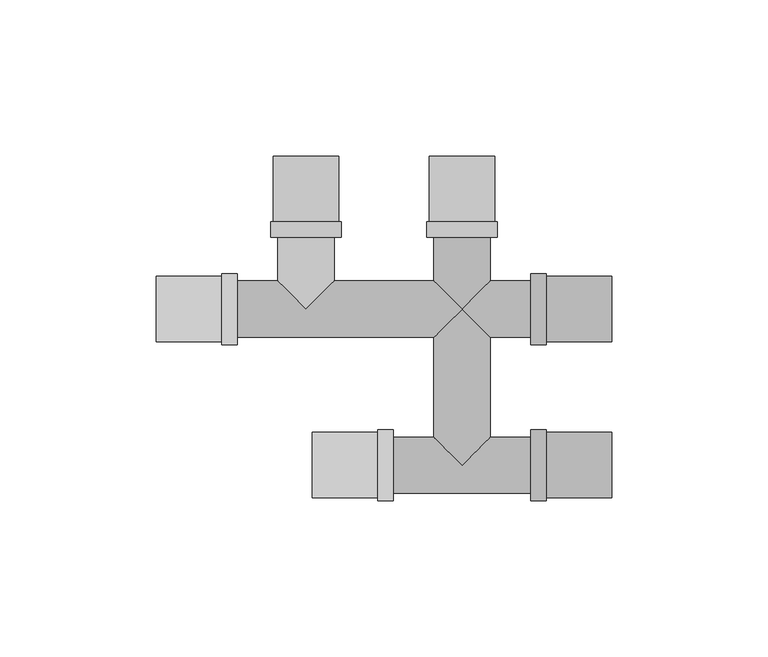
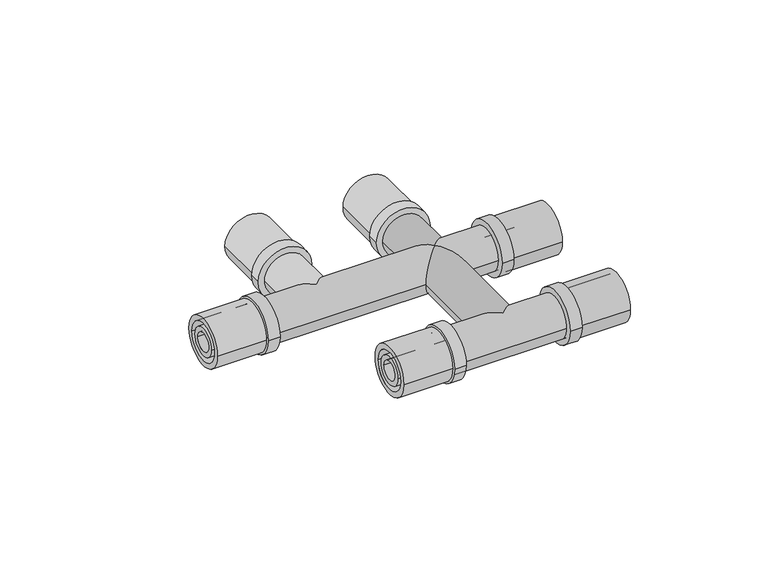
"""IFC4 building model written with IfcOpenShell, lengths in millimetres: pipe fitting geometry, PIF_Tigris_Crossfitting_Wavin_(multiport) : Tigris M5 Crossfitting 16x16x16."""

from ifc_helpers import new_model, si_unit, point, frame, frame_2d, origin, origin_2d, place, context, project, spatial, circle_curve, ellipse_curve, trimmed, segment, composite_curve, outline, extrude, source, transform, mapped, element, save
from ifc_brep_helpers import plane_surface, cylinder_surface, advanced_brep


def pipe_fitting_1897fdac(model_context):
    return source(origin(), model_context, "Body", "SolidModel", [
        extrude(outline(composite_curve([segment(trimmed(circle_curve(frame_2d((-50.0, 0.0)), 11.35), [point((-61.35, 0.0))], [point((-38.65, 0.0))], False, "CARTESIAN"), True, "CONTINUOUS"), segment(trimmed(circle_curve(frame_2d((-50.0, 0.0)), 11.35), [point((-38.65, 0.0))], [point((-61.35, 0.0))], False, "CARTESIAN"), True, "CONTINUOUS")], self_intersect=False)), frame((-27.0, 0.0, 0.0), z_axis=(1.0, 0.0, 0.0), x_axis=(0.0, 1.0, 0.0)), (0.0, 0.0, 1.0), 5.0),
        extrude(outline(composite_curve([segment(trimmed(circle_curve(frame_2d((-50.0, 0.0)), 10.5), [point((-60.5, 0.0))], [point((-39.5, 0.0))], False, "CARTESIAN"), True, "CONTINUOUS"), segment(trimmed(circle_curve(frame_2d((-50.0, 0.0)), 10.5), [point((-39.5, 0.0))], [point((-60.5, 0.0))], False, "CARTESIAN"), True, "CONTINUOUS")], self_intersect=False), holes=[composite_curve([segment(trimmed(circle_curve(frame_2d((-50.0, 0.0)), 8.2), [point((-58.2, 0.0))], [point((-41.8, 0.0))], True, "CARTESIAN"), True, "CONTINUOUS"), segment(trimmed(circle_curve(frame_2d((-50.0, 0.0)), 8.2), [point((-41.8, 0.0))], [point((-58.2, 0.0))], True, "CARTESIAN"), True, "CONTINUOUS")], self_intersect=False)]), frame((-48.0, 0.0, 0.0), z_axis=(1.0, 0.0, 0.0), x_axis=(0.0, 1.0, 0.0)), (0.0, 0.0, 1.0), 21.0),
        extrude(outline(composite_curve([segment(trimmed(circle_curve(frame_2d((-50.0, 0.0)), 6.1), [point((-56.1, 0.0))], [point((-43.9, 0.0))], False, "CARTESIAN"), True, "CONTINUOUS"), segment(trimmed(circle_curve(frame_2d((-50.0, 0.0)), 6.1), [point((-43.9, 0.0))], [point((-56.1, 0.0))], False, "CARTESIAN"), True, "CONTINUOUS")], self_intersect=False), holes=[composite_curve([segment(trimmed(circle_curve(frame_2d((-50.0, 0.0)), 4.0), [point((-54.0, 0.0))], [point((-46.0, 0.0))], True, "CARTESIAN"), True, "CONTINUOUS"), segment(trimmed(circle_curve(frame_2d((-50.0, 0.0)), 4.0), [point((-46.0, 0.0))], [point((-54.0, 0.0))], True, "CARTESIAN"), True, "CONTINUOUS")], self_intersect=False)]), frame((-48.0, 0.0, 0.0), z_axis=(1.0, 0.0, 0.0), x_axis=(0.0, 1.0, 0.0)), (0.0, 0.0, 1.0), 25.0),
        extrude(outline(composite_curve([segment(trimmed(circle_curve(frame_2d((-50.0, 0.0)), 11.35), [point((-38.65, 0.0))], [point((-61.35, 0.0))], False, "CARTESIAN"), True, "CONTINUOUS"), segment(trimmed(circle_curve(frame_2d((-50.0, 0.0)), 11.35), [point((-61.35, 0.0))], [point((-38.65, 0.0))], False, "CARTESIAN"), True, "CONTINUOUS")], self_intersect=False)), frame((22.0, 0.0, 0.0), z_axis=(1.0, 0.0, 0.0), x_axis=(0.0, 1.0, 0.0)), (0.0, 0.0, 1.0), 5.0),
        extrude(outline(composite_curve([segment(trimmed(circle_curve(frame_2d((-50.0, 0.0)), 10.5), [point((-39.5, 0.0))], [point((-60.5, 0.0))], False, "CARTESIAN"), True, "CONTINUOUS"), segment(trimmed(circle_curve(frame_2d((-50.0, 0.0)), 10.5), [point((-60.5, 0.0))], [point((-39.5, 0.0))], False, "CARTESIAN"), True, "CONTINUOUS")], self_intersect=False), holes=[composite_curve([segment(trimmed(circle_curve(frame_2d((-50.0, 0.0)), 8.2), [point((-41.8, 0.0))], [point((-58.2, 0.0))], True, "CARTESIAN"), True, "CONTINUOUS"), segment(trimmed(circle_curve(frame_2d((-50.0, 0.0)), 8.2), [point((-58.2, 0.0))], [point((-41.8, 0.0))], True, "CARTESIAN"), True, "CONTINUOUS")], self_intersect=False)]), frame((27.0, 0.0, 0.0), z_axis=(1.0, 0.0, 0.0), x_axis=(0.0, 1.0, 0.0)), (0.0, 0.0, 1.0), 21.0),
        extrude(outline(composite_curve([segment(trimmed(circle_curve(frame_2d((-50.0, 0.0)), 6.1), [point((-43.9, 0.0))], [point((-56.1, 0.0))], False, "CARTESIAN"), True, "CONTINUOUS"), segment(trimmed(circle_curve(frame_2d((-50.0, 0.0)), 6.1), [point((-56.1, 0.0))], [point((-43.9, 0.0))], False, "CARTESIAN"), True, "CONTINUOUS")], self_intersect=False), holes=[composite_curve([segment(trimmed(circle_curve(frame_2d((-50.0, 0.0)), 4.0), [point((-46.0, 0.0))], [point((-54.0, 0.0))], True, "CARTESIAN"), True, "CONTINUOUS"), segment(trimmed(circle_curve(frame_2d((-50.0, 0.0)), 4.0), [point((-54.0, 0.0))], [point((-46.0, 0.0))], True, "CARTESIAN"), True, "CONTINUOUS")], self_intersect=False)]), frame((23.0, 0.0, 0.0), z_axis=(1.0, 0.0, 0.0), x_axis=(0.0, 1.0, 0.0)), (0.0, 0.0, 1.0), 25.0),
        extrude(outline(composite_curve([segment(trimmed(circle_curve(origin_2d(), 11.35), [point((11.35, 0.0))], [point((-11.35, 0.0))], False, "CARTESIAN"), True, "CONTINUOUS"), segment(trimmed(circle_curve(origin_2d(), 11.35), [point((-11.35, 0.0))], [point((11.35, 0.0))], False, "CARTESIAN"), True, "CONTINUOUS")], self_intersect=False)), frame((22.0, 0.0, 0.0), z_axis=(1.0, 0.0, 0.0), x_axis=(0.0, 1.0, 0.0)), (0.0, 0.0, 1.0), 5.0),
        extrude(outline(composite_curve([segment(trimmed(circle_curve(origin_2d(), 10.5), [point((10.5, 0.0))], [point((-10.5, 0.0))], False, "CARTESIAN"), True, "CONTINUOUS"), segment(trimmed(circle_curve(origin_2d(), 10.5), [point((-10.5, 0.0))], [point((10.5, 0.0))], False, "CARTESIAN"), True, "CONTINUOUS")], self_intersect=False), holes=[composite_curve([segment(trimmed(circle_curve(origin_2d(), 8.2), [point((8.2, 0.0))], [point((-8.2, 0.0))], True, "CARTESIAN"), True, "CONTINUOUS"), segment(trimmed(circle_curve(origin_2d(), 8.2), [point((-8.2, 0.0))], [point((8.2, 0.0))], True, "CARTESIAN"), True, "CONTINUOUS")], self_intersect=False)]), frame((27.0, 0.0, 0.0), z_axis=(1.0, 0.0, 0.0), x_axis=(0.0, 1.0, 0.0)), (0.0, 0.0, 1.0), 21.0),
        extrude(outline(composite_curve([segment(trimmed(circle_curve(origin_2d(), 6.1), [point((6.1, 0.0))], [point((-6.1, 0.0))], False, "CARTESIAN"), True, "CONTINUOUS"), segment(trimmed(circle_curve(origin_2d(), 6.1), [point((-6.1, 0.0))], [point((6.1, 0.0))], False, "CARTESIAN"), True, "CONTINUOUS")], self_intersect=False), holes=[composite_curve([segment(trimmed(circle_curve(origin_2d(), 4.0), [point((4.0, 0.0))], [point((-4.0, 0.0))], True, "CARTESIAN"), True, "CONTINUOUS"), segment(trimmed(circle_curve(origin_2d(), 4.0), [point((-4.0, 0.0))], [point((4.0, 0.0))], True, "CARTESIAN"), True, "CONTINUOUS")], self_intersect=False)]), frame((23.0, 0.0, 0.0), z_axis=(1.0, 0.0, 0.0), x_axis=(0.0, 1.0, 0.0)), (0.0, 0.0, 1.0), 25.0),
        extrude(outline(composite_curve([segment(trimmed(circle_curve(origin_2d(), 11.35), [point((0.0, -11.35))], [point((0.0, 11.35))], False, "CARTESIAN"), True, "CONTINUOUS"), segment(trimmed(circle_curve(origin_2d(), 11.35), [point((0.0, 11.35))], [point((0.0, -11.35))], False, "CARTESIAN"), True, "CONTINUOUS")], self_intersect=False)), frame((0.0, 23.0, 0.0), z_axis=(0.0, 1.0, 0.0), x_axis=(0.0, 0.0, 1.0)), (0.0, 0.0, 1.0), 5.0),
        extrude(outline(composite_curve([segment(trimmed(circle_curve(origin_2d(), 10.5), [point((0.0, -10.5))], [point((0.0, 10.5))], False, "CARTESIAN"), True, "CONTINUOUS"), segment(trimmed(circle_curve(origin_2d(), 10.5), [point((0.0, 10.5))], [point((0.0, -10.5))], False, "CARTESIAN"), True, "CONTINUOUS")], self_intersect=False), holes=[composite_curve([segment(trimmed(circle_curve(origin_2d(), 8.2), [point((0.0, -8.2))], [point((0.0, 8.2))], True, "CARTESIAN"), True, "CONTINUOUS"), segment(trimmed(circle_curve(origin_2d(), 8.2), [point((0.0, 8.2))], [point((0.0, -8.2))], True, "CARTESIAN"), True, "CONTINUOUS")], self_intersect=False)]), frame((0.0, 28.0, 0.0), z_axis=(0.0, 1.0, 0.0), x_axis=(0.0, 0.0, 1.0)), (0.0, 0.0, 1.0), 21.0),
        extrude(outline(composite_curve([segment(trimmed(circle_curve(origin_2d(), 6.1), [point((0.0, -6.1))], [point((0.0, 6.1))], False, "CARTESIAN"), True, "CONTINUOUS"), segment(trimmed(circle_curve(origin_2d(), 6.1), [point((0.0, 6.1))], [point((0.0, -6.1))], False, "CARTESIAN"), True, "CONTINUOUS")], self_intersect=False), holes=[composite_curve([segment(trimmed(circle_curve(origin_2d(), 4.0), [point((0.0, -4.0))], [point((0.0, 4.0))], True, "CARTESIAN"), True, "CONTINUOUS"), segment(trimmed(circle_curve(origin_2d(), 4.0), [point((0.0, 4.0))], [point((0.0, -4.0))], True, "CARTESIAN"), True, "CONTINUOUS")], self_intersect=False)]), frame((0.0, 24.0, 0.0), z_axis=(0.0, 1.0, 0.0), x_axis=(0.0, 0.0, 1.0)), (0.0, 0.0, 1.0), 25.0),
        extrude(outline(composite_curve([segment(trimmed(circle_curve(frame_2d((0.0, -50.0)), 11.35), [point((0.0, -61.35))], [point((0.0, -38.65))], False, "CARTESIAN"), True, "CONTINUOUS"), segment(trimmed(circle_curve(frame_2d((0.0, -50.0)), 11.35), [point((0.0, -38.65))], [point((0.0, -61.35))], False, "CARTESIAN"), True, "CONTINUOUS")], self_intersect=False)), frame((0.0, 23.0, 0.0), z_axis=(0.0, 1.0, 0.0), x_axis=(0.0, 0.0, 1.0)), (0.0, 0.0, 1.0), 5.0),
        extrude(outline(composite_curve([segment(trimmed(circle_curve(frame_2d((0.0, -50.0)), 10.5), [point((0.0, -60.5))], [point((0.0, -39.5))], False, "CARTESIAN"), True, "CONTINUOUS"), segment(trimmed(circle_curve(frame_2d((0.0, -50.0)), 10.5), [point((0.0, -39.5))], [point((0.0, -60.5))], False, "CARTESIAN"), True, "CONTINUOUS")], self_intersect=False), holes=[composite_curve([segment(trimmed(circle_curve(frame_2d((0.0, -50.0)), 8.2), [point((0.0, -58.2))], [point((0.0, -41.8))], True, "CARTESIAN"), True, "CONTINUOUS"), segment(trimmed(circle_curve(frame_2d((0.0, -50.0)), 8.2), [point((0.0, -41.8))], [point((0.0, -58.2))], True, "CARTESIAN"), True, "CONTINUOUS")], self_intersect=False)]), frame((0.0, 28.0, 0.0), z_axis=(0.0, 1.0, 0.0), x_axis=(0.0, 0.0, 1.0)), (0.0, 0.0, 1.0), 21.0),
        extrude(outline(composite_curve([segment(trimmed(circle_curve(frame_2d((0.0, -50.0)), 6.1), [point((0.0, -56.1))], [point((0.0, -43.9))], False, "CARTESIAN"), True, "CONTINUOUS"), segment(trimmed(circle_curve(frame_2d((0.0, -50.0)), 6.1), [point((0.0, -43.9))], [point((0.0, -56.1))], False, "CARTESIAN"), True, "CONTINUOUS")], self_intersect=False), holes=[composite_curve([segment(trimmed(circle_curve(frame_2d((0.0, -50.0)), 4.0), [point((0.0, -54.0))], [point((0.0, -46.0))], True, "CARTESIAN"), True, "CONTINUOUS"), segment(trimmed(circle_curve(frame_2d((0.0, -50.0)), 4.0), [point((0.0, -46.0))], [point((0.0, -54.0))], True, "CARTESIAN"), True, "CONTINUOUS")], self_intersect=False)]), frame((0.0, 24.0, 0.0), z_axis=(0.0, 1.0, 0.0), x_axis=(0.0, 0.0, 1.0)), (0.0, 0.0, 1.0), 25.0),
        extrude(outline(composite_curve([segment(trimmed(circle_curve(origin_2d(), 11.35), [point((-11.35, 0.0))], [point((11.35, 0.0))], False, "CARTESIAN"), True, "CONTINUOUS"), segment(trimmed(circle_curve(origin_2d(), 11.35), [point((11.35, 0.0))], [point((-11.35, 0.0))], False, "CARTESIAN"), True, "CONTINUOUS")], self_intersect=False)), frame((-77.0, 0.0, 0.0), z_axis=(1.0, 0.0, 0.0), x_axis=(0.0, 1.0, 0.0)), (0.0, 0.0, 1.0), 5.0),
        extrude(outline(composite_curve([segment(trimmed(circle_curve(origin_2d(), 10.5), [point((-10.5, 0.0))], [point((10.5, 0.0))], False, "CARTESIAN"), True, "CONTINUOUS"), segment(trimmed(circle_curve(origin_2d(), 10.5), [point((10.5, 0.0))], [point((-10.5, 0.0))], False, "CARTESIAN"), True, "CONTINUOUS")], self_intersect=False), holes=[composite_curve([segment(trimmed(circle_curve(origin_2d(), 8.2), [point((-8.2, 0.0))], [point((8.2, 0.0))], True, "CARTESIAN"), True, "CONTINUOUS"), segment(trimmed(circle_curve(origin_2d(), 8.2), [point((8.2, 0.0))], [point((-8.2, 0.0))], True, "CARTESIAN"), True, "CONTINUOUS")], self_intersect=False)]), frame((-98.0, 0.0, 0.0), z_axis=(1.0, 0.0, 0.0), x_axis=(0.0, 1.0, 0.0)), (0.0, 0.0, 1.0), 21.0),
        extrude(outline(composite_curve([segment(trimmed(circle_curve(origin_2d(), 6.1), [point((-6.1, 0.0))], [point((6.1, 0.0))], False, "CARTESIAN"), True, "CONTINUOUS"), segment(trimmed(circle_curve(origin_2d(), 6.1), [point((6.1, 0.0))], [point((-6.1, 0.0))], False, "CARTESIAN"), True, "CONTINUOUS")], self_intersect=False), holes=[composite_curve([segment(trimmed(circle_curve(origin_2d(), 4.0), [point((-4.0, 0.0))], [point((4.0, 0.0))], True, "CARTESIAN"), True, "CONTINUOUS"), segment(trimmed(circle_curve(origin_2d(), 4.0), [point((4.0, 0.0))], [point((-4.0, 0.0))], True, "CARTESIAN"), True, "CONTINUOUS")], self_intersect=False)]), frame((-98.0, 0.0, 0.0), z_axis=(1.0, 0.0, 0.0), x_axis=(0.0, 1.0, 0.0)), (0.0, 0.0, 1.0), 25.0),
        advanced_brep(
        [(-73.0, -9.0, 0.0), (-73.0, 9.0, 0.0), (23.0, -9.0, 0.0), (23.0, 9.0, 0.0), (-9.0, -9.0, 0.0), (0.0, 0.0, 9.0), (-9.0, 9.0, 0.0), (-41.0, 9.0, 0.0), (-50.0, 0.0, 9.0), (-59.0, 9.0, 0.0), (9.0, 9.0, 0.0), (9.0, -9.0, 0.0), (-50.0, 0.0, -9.0), (0.0, 0.0, -9.0), (-41.0, 24.0, 0.0), (-59.0, 24.0, 0.0), (-9.0, 24.0, 0.0), (9.0, 24.0, 0.0), (-9.0, -41.0, 0.0), (0.0, -50.0, 9.0), (9.0, -41.0, 0.0), (0.0, -50.0, -9.0), (-23.0, -59.0, 0.0), (-23.0, -41.0, 0.0), (23.0, -59.0, 0.0), (23.0, -41.0, 0.0)],
        [
            (0, 1, circle_curve(frame((-73.0, 0.0, 0.0), z_axis=(-1.0, 0.0, 0.0), x_axis=(0.0, 1.0, 0.0)), 9.0)),
            (1, 0, circle_curve(frame((-73.0, 0.0, 0.0), z_axis=(-1.0, 0.0, 0.0), x_axis=(0.0, 1.0, 0.0)), 9.0)),
            (2, 3, circle_curve(frame((23.0, 0.0, 0.0), z_axis=(1.0, 0.0, 0.0), x_axis=(0.0, 1.0, 0.0)), 9.0)),
            (3, 2, circle_curve(frame((23.0, 0.0, 0.0), z_axis=(1.0, 0.0, 0.0), x_axis=(0.0, 1.0, 0.0)), 9.0)),
            (0, 4),
            (4, 5, ellipse_curve(frame((0.0, 0.0, 0.0), z_axis=(-0.7071067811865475, 0.7071067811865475, 0.0), x_axis=(-0.7071067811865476, -0.7071067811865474, 0.0)), 12.7279221, 9.0)),
            (5, 6, ellipse_curve(frame((0.0, 0.0, 0.0), z_axis=(-0.7071067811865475, -0.7071067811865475, 0.0), x_axis=(-0.7071067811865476, 0.7071067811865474, 0.0)), 12.7279221, 9.0)),
            (6, 7),
            (7, 8, ellipse_curve(frame((-50.0, 0.0, 0.0), z_axis=(0.7071067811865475, -0.7071067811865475, 0.0), x_axis=(-0.7071067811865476, -0.7071067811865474, 0.0)), 12.7279221, 9.0)),
            (8, 9, ellipse_curve(frame((-50.0, 0.0, 0.0), z_axis=(-0.7071067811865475, -0.7071067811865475, 0.0), x_axis=(-0.7071067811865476, 0.7071067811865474, 0.0)), 12.7279221, 9.0)),
            (9, 1),
            (3, 10),
            (10, 5, ellipse_curve(frame((0.0, 0.0, 0.0), z_axis=(0.7071067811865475, -0.7071067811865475, 0.0), x_axis=(-0.7071067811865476, -0.7071067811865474, 0.0)), 12.7279221, 9.0)),
            (5, 11, ellipse_curve(frame((0.0, 0.0, 0.0), z_axis=(0.7071067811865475, 0.7071067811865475, 0.0), x_axis=(-0.7071067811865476, 0.7071067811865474, 0.0)), 12.7279221, 9.0)),
            (11, 2),
            (9, 12, ellipse_curve(frame((-50.0, 0.0, 0.0), z_axis=(-0.7071067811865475, -0.7071067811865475, 0.0), x_axis=(-0.7071067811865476, 0.7071067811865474, 0.0)), 12.7279221, 9.0)),
            (12, 7, ellipse_curve(frame((-50.0, 0.0, 0.0), z_axis=(0.7071067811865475, -0.7071067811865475, 0.0), x_axis=(-0.7071067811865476, -0.7071067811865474, 0.0)), 12.7279221, 9.0)),
            (6, 13, ellipse_curve(frame((0.0, 0.0, 0.0), z_axis=(-0.7071067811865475, -0.7071067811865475, 0.0), x_axis=(-0.7071067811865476, 0.7071067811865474, 0.0)), 12.7279221, 9.0)),
            (13, 4, ellipse_curve(frame((0.0, 0.0, 0.0), z_axis=(-0.7071067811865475, 0.7071067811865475, 0.0), x_axis=(-0.7071067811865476, -0.7071067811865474, 0.0)), 12.7279221, 9.0)),
            (11, 13, ellipse_curve(frame((0.0, 0.0, 0.0), z_axis=(0.7071067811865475, 0.7071067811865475, 0.0), x_axis=(-0.7071067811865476, 0.7071067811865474, 0.0)), 12.7279221, 9.0)),
            (13, 10, ellipse_curve(frame((0.0, 0.0, 0.0), z_axis=(0.7071067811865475, -0.7071067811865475, 0.0), x_axis=(-0.7071067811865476, -0.7071067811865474, 0.0)), 12.7279221, 9.0)),
            (14, 15, circle_curve(frame((-50.0, 24.0, 0.0), z_axis=(0.0, 1.0, 0.0), x_axis=(-1.0, 0.0, 0.0)), 9.0)),
            (15, 14, circle_curve(frame((-50.0, 24.0, 0.0), z_axis=(0.0, 1.0, 0.0), x_axis=(-1.0, 0.0, 0.0)), 9.0)),
            (15, 9),
            (7, 14),
            (16, 17, circle_curve(frame((0.0, 24.0, 0.0), z_axis=(0.0, 1.0, 0.0), x_axis=(1.0, 0.0, 0.0)), 9.0)),
            (17, 16, circle_curve(frame((0.0, 24.0, 0.0), z_axis=(0.0, 1.0, 0.0), x_axis=(1.0, 0.0, 0.0)), 9.0)),
            (16, 6),
            (10, 17),
            (4, 18),
            (18, 19, ellipse_curve(frame((0.0, -50.0, 0.0), z_axis=(0.7071067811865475, 0.7071067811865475, 0.0), x_axis=(-0.7071067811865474, 0.7071067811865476, 0.0)), 12.7279221, 9.0)),
            (19, 20, ellipse_curve(frame((0.0, -50.0, 0.0), z_axis=(-0.7071067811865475, 0.7071067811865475, 0.0), x_axis=(0.7071067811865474, 0.7071067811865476, 0.0)), 12.7279221, 9.0)),
            (20, 11),
            (20, 21, ellipse_curve(frame((0.0, -50.0, 0.0), z_axis=(-0.7071067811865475, 0.7071067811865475, 0.0), x_axis=(0.7071067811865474, 0.7071067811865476, 0.0)), 12.7279221, 9.0)),
            (21, 18, ellipse_curve(frame((0.0, -50.0, 0.0), z_axis=(0.7071067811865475, 0.7071067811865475, 0.0), x_axis=(-0.7071067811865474, 0.7071067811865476, 0.0)), 12.7279221, 9.0)),
            (22, 23, circle_curve(frame((-23.0, -50.0, 0.0), z_axis=(-1.0, 0.0, 0.0), x_axis=(0.0, 1.0, 0.0)), 9.0)),
            (23, 22, circle_curve(frame((-23.0, -50.0, 0.0), z_axis=(-1.0, 0.0, 0.0), x_axis=(0.0, 1.0, 0.0)), 9.0)),
            (24, 25, circle_curve(frame((23.0, -50.0, 0.0), z_axis=(1.0, 0.0, 0.0), x_axis=(0.0, 1.0, 0.0)), 9.0)),
            (25, 24, circle_curve(frame((23.0, -50.0, 0.0), z_axis=(1.0, 0.0, 0.0), x_axis=(0.0, 1.0, 0.0)), 9.0)),
            (22, 24),
            (25, 20),
            (18, 23),
        ],
        [
            plane_surface(frame((-73.0, 0.0, 0.0), z_axis=(-1.0, 0.0, 0.0), x_axis=(0.0, 0.0, 1.0))),
            plane_surface(frame((23.0, 0.0, 0.0), z_axis=(1.0, 0.0, 0.0), x_axis=(0.0, 0.0, 1.0))),
            cylinder_surface(frame((-73.0, 0.0, 0.0), z_axis=(-1.0, 0.0, 0.0), x_axis=(0.0, 1.0, 0.0)), 9.0),
            plane_surface(frame((-50.0, 24.0, 0.0), z_axis=(0.0, 1.0, 0.0), x_axis=(0.0, 0.0, 1.0))),
            cylinder_surface(frame((-50.0, 0.0, 0.0), z_axis=(0.0, -1.0, 0.0), x_axis=(-1.0, 0.0, 0.0)), 9.0),
            plane_surface(frame((0.0, 24.0, 0.0), z_axis=(0.0, 1.0, 0.0), x_axis=(0.0, 0.0, 1.0))),
            cylinder_surface(frame((0.0, 24.0, 0.0), z_axis=(0.0, 1.0, 0.0), x_axis=(1.0, 0.0, 0.0)), 9.0),
            plane_surface(frame((-23.0, -50.0, 0.0), z_axis=(-1.0, 0.0, 0.0), x_axis=(0.0, 0.0, 1.0))),
            plane_surface(frame((23.0, -50.0, 0.0), z_axis=(1.0, 0.0, 0.0), x_axis=(0.0, 0.0, 1.0))),
            cylinder_surface(frame((-23.0, -50.0, 0.0), z_axis=(-1.0, 0.0, 0.0), x_axis=(0.0, 1.0, 0.0)), 9.0),
        ],
        [
            (0, [[1, 2]]),
            (1, [[3, 4]]),
            (2, [[-1, 5, 6, 7, 8, 9, 10, 11]]),
            (2, [[-4, 12, 13, 14, 15]]),
            (2, [[-2, -11, 16, 17, -8, 18, 19, -5]]),
            (2, [[-3, -15, 20, 21, -12]]),
            (3, [[22, 23]]),
            (4, [[-23, 24, -10, -9, 25]]),
            (4, [[-22, -25, -17, -16, -24]]),
            (5, [[26, 27]]),
            (6, [[-26, 28, -7, -13, 29]]),
            (6, [[-14, -6, 30, 31, 32, 33]]),
            (6, [[-27, -29, -21, -18, -28]]),
            (6, [[-20, -33, 34, 35, -30, -19]]),
            (7, [[36, 37]]),
            (8, [[38, 39]]),
            (9, [[-36, 40, -39, 41, -32, -31, 42]]),
            (9, [[-37, -42, -35, -34, -41, -38, -40]]),
        ],
    ),
    ])


if __name__ == "__main__":
    model = new_model("IFC4")
    model_context = context("Model", 3, world=origin())
    ifc_project = project(units=[si_unit("LENGTHUNIT", "METRE", prefix="MILLI")], contexts=[model_context])
    site = spatial("IfcSite", under=ifc_project)
    building = spatial("IfcBuilding", under=site)
    placement = place(None, origin())
    pipe_fitting_shape = pipe_fitting_1897fdac(model_context)
    element("IfcPipeFitting", 1, ObjectType="PIF_Tigris_Crossfitting_Wavin_(multiport) : Tigris M5 Crossfitting 16x16x16", at=placement, inside=building, context=model_context, shape_type="MappedRepresentation", body=[
        mapped(pipe_fitting_shape, transform((0.0, 0.0, 0.0), x_axis=(1.0, 0.0, 0.0), y_axis=(0.0, 1.0, 0.0), z_axis=(0.0, 0.0, 1.0))),
    ])
    save(model, "model.ifc")
